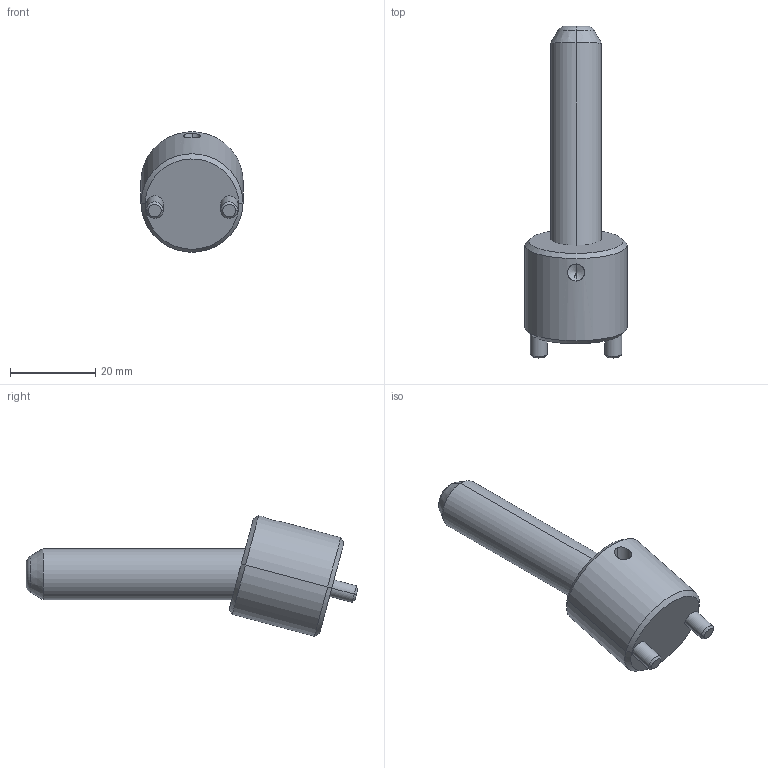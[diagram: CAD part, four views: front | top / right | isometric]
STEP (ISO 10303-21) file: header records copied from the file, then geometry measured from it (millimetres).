
FILE_DESCRIPTION(('CATIA V5 STEP Exchange'),'2;1');
FILE_NAME('C:\Users\Raffaele\Desktop\3D BOLEX\3D FILES CF BOLEX\19-INCLINED ASSEMBLY REF_CI\CI1512050.stp','2019-06-20T13:54:13+00:00',('none'),('none'),'CATIA Version 5 Release 20 GA (IN-10)','CATIA V5 STEP AP203','none');
FILE_SCHEMA(('CONFIG_CONTROL_DESIGN'));
Length unit declared in the file: millimetre
Products named in the file (1): CI1512050
Assembly tree (2 placements, depth 2):
  CI1512050
    #58
    #560
Bounding box: 24 x 78.08 x 28.36 mm (x, y, z)
Volume: 15368.8 mm3; surface area: 6079.8 mm2
Topology: 2 solids, 2 shells, 39 faces, 82 edges, 47 vertices
Faces by surface type: cone 14, cylinder 14, plane 7, torus 4
Entity records: 1440 total; most frequent: CARTESIAN_POINT 581, ORIENTED_EDGE 160, DIRECTION 145, EDGE_CURVE 80, AXIS2_PLACEMENT_3D 72, VERTEX_POINT 47, EDGE_LOOP 43, ADVANCED_FACE 39
